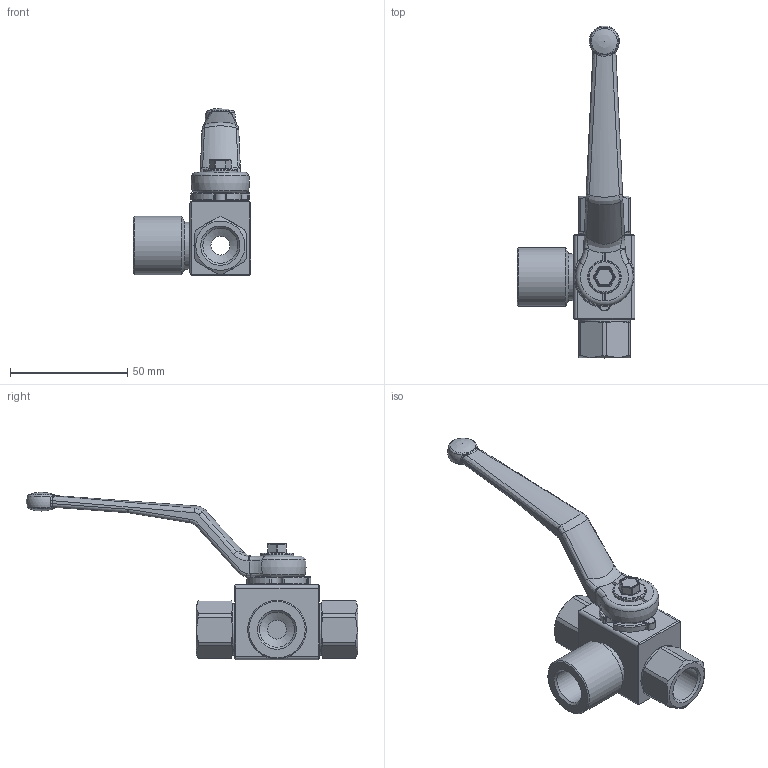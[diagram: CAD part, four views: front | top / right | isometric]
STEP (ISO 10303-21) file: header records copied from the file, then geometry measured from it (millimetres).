
FILE_DESCRIPTION( ( 'Unknown' ), '1' );
FILE_NAME( 'H:/PISTER/3D-MODELLE/BK3 stp/BK3 DN8 G3_8.stp', 'Unknown', ( 'Unknown' ), ( 'Unknown' ), 'PSStep 14.0', 'Unknown', ' ' );
FILE_SCHEMA( ( 'AUTOMOTIVE_DESIGN { 1 0 10303 214 1 1 1 1 }' ) );
Length unit declared in the file: millimetre
Products named in the file (10): Assem1; 03-008-002-oa3; 04-008-042-oa4; 06-008-059-oa9; 09-09-002; 58-28740-07-oa10; Griff_SW9; 58-0933-133; 01-008-017-oa11; 04-008-034-oa12
Assembly tree (9 placements, depth 2):
  Assem1
    03-008-002-oa3
    04-008-042-oa4
    06-008-059-oa9
    09-09-002
    58-28740-07-oa10
    Griff_SW9
    58-0933-133
    01-008-017-oa11
    04-008-034-oa12
Bounding box: 50.2 x 141.5 x 71.4 mm (x, y, z)
Volume: 35328.1 mm3; surface area: 25605.8 mm2
Topology: 9 solids, 9 shells, 385 faces, 954 edges, 574 vertices
Faces by surface type: cylinder 134, plane 122, bspline 42, torus 37, cone 30, sphere 20
Full cylindrical faces by diameter (mm): 4.134 x1, 4.98 x1, 5 x1, 8 x2, 14 x2, 14.3 x1, 14.95 x4, 15.2 x2, 20 x2, 21 x3, 22 x2, 22.5 x2, 25 x1
Entity records: 15784 total; most frequent: CARTESIAN_POINT 4011, DIRECTION 1833, ORIENTED_EDGE 1704, EDGE_CURVE 852, AXIS2_PLACEMENT_3D 746, VERTEX_POINT 545, EDGE_LOOP 462, FACE_OUTER_BOUND 418
